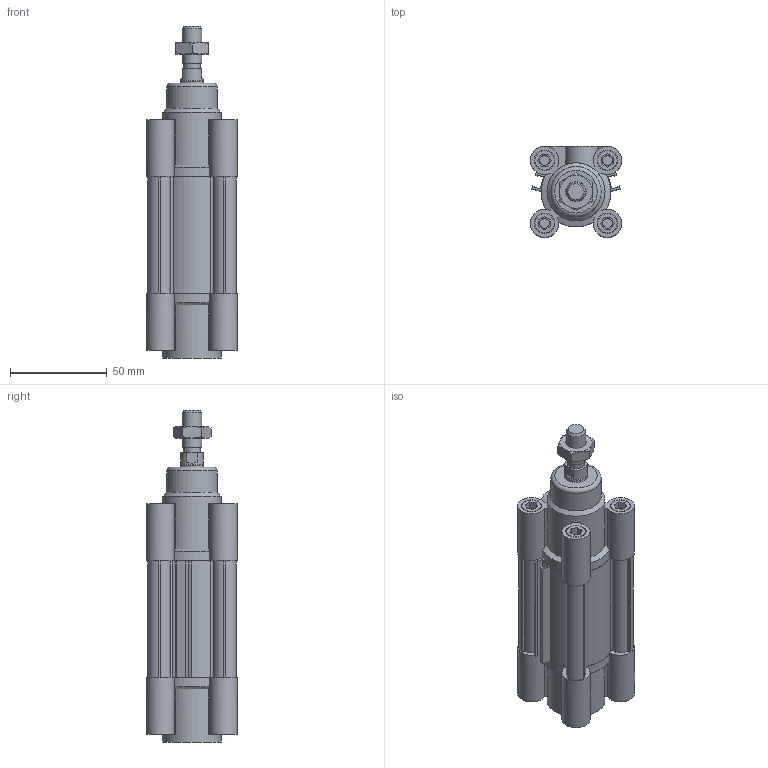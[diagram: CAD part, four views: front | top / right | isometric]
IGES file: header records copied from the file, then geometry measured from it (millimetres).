
Global section: file name: No Iges File Name specified; native system: Autodesk Inventor 2012; preprocessor: AutoDesk Inventor Iges Exporter R2012; author: pilonfr1; date: 20120128.094959; units: millimetre
Bounding box: 47 x 47 x 171.5 mm (x, y, z)
Volume: 168896 mm3; surface area: 67646.4 mm2
Topology: 5 solids, 5 shells, 316 faces, 788 edges, 522 vertices
Faces by surface type: plane 200, cylinder 54, revolution 39, cone 22, torus 1
Full cylindrical faces by diameter (mm): 8.8 x1, 10 x9, 11.5 x1, 12 x1, 26 x1, 30 x2, 32 x3
